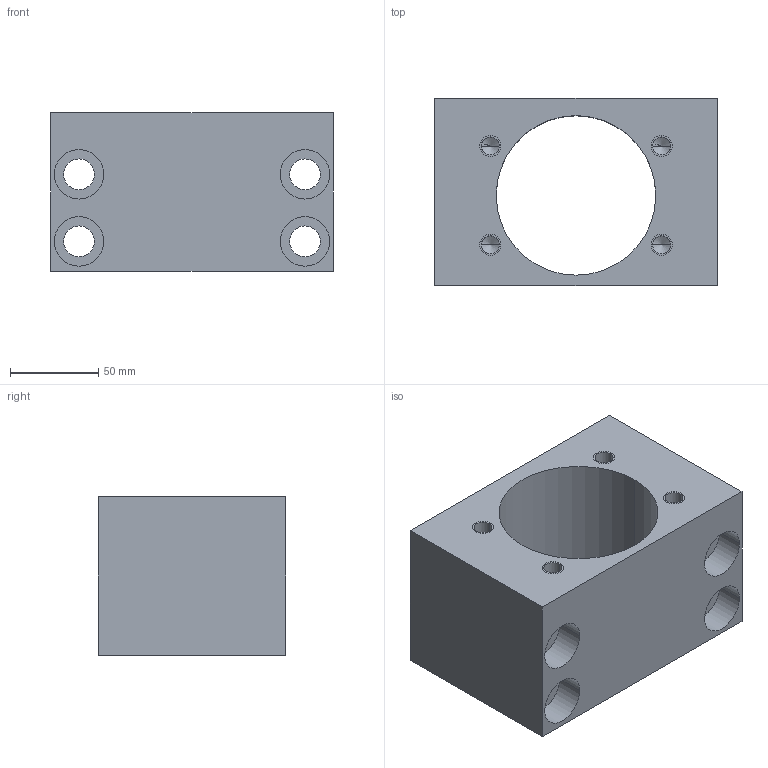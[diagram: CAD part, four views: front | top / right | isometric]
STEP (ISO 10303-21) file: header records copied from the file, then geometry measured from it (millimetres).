
FILE_DESCRIPTION((''),'2;1');
FILE_NAME('NH50C','2020-04-10T',('Administrator'),(''),'PRO/ENGINEER BY PARAMETRIC TECHNOLOGY CORPORATION, 2010280','PRO/ENGINEER BY PARAMETRIC TECHNOLOGY CORPORATION, 2010280','');
FILE_SCHEMA(('CONFIG_CONTROL_DESIGN'));
Length unit declared in the file: millimetre
Products named in the file (1): NH50C
Bounding box: 160 x 106 x 90 mm (x, y, z)
Volume: 812369.6 mm3; surface area: 125947.1 mm2
Topology: 1 solids, 5 shells, 64 faces, 162 edges, 104 vertices
Faces by surface type: cylinder 34, plane 18, cone 12
Entity records: 2021 total; most frequent: CARTESIAN_POINT 387, DIRECTION 364, ORIENTED_EDGE 292, EDGE_CURVE 154, AXIS2_PLACEMENT_3D 153, VERTEX_POINT 104, CIRCLE 88, EDGE_LOOP 86
